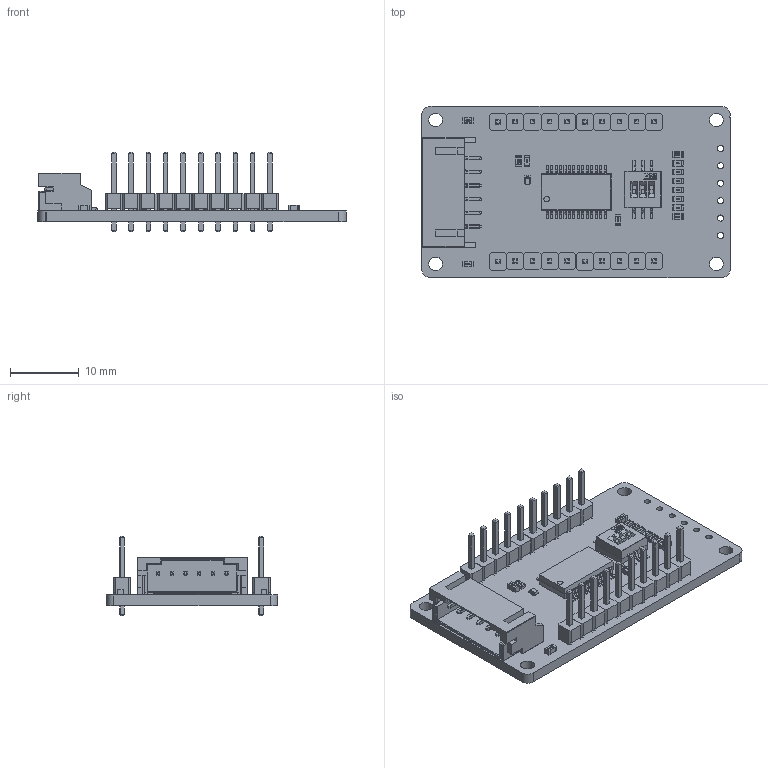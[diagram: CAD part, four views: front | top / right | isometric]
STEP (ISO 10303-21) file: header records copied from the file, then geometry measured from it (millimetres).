
FILE_DESCRIPTION(/* description */ (''),/* implementation_level */ '2;1');
FILE_NAME(/* name */ 'SG-IO-E017-V1.2_step.prt.stp',/* time_stamp */ '2025-08-19T13:21:23+08:00',/* author */ (''),/* organization */ (''),/* preprocessor_version */ 'ST-DEVELOPER v16.7',/* originating_system */ 'SIEMENS PLM Software NX 12.0',/* authorisation */ '');
FILE_SCHEMA (('AUTOMOTIVE_DESIGN { 1 0 10303 214 3 1 1 1 }'));
Products named in the file (49): 1_1_2_3_4_A; 2_1_2_3_400; 3_1_2_3_400; PH2_0_SMD-W__1_2_30002; User_Library-LED_0603_R_Pad; User_Library-LED_0603_R_Pocket001; User_Library-LED_0603_R_Fillet; User_Library-LED_0603_R_Pad004; User_Library-LED_0603_R_Pocket002; _X2_041D043E0436043A0430_X0_; _X2_041C04350442043A0430_X0_; _X2_041A043E0440043F04430441_X0_; C_060313653; LOGO_10589; LOGO_; R_06031983; 2_54PIN_single; sw-dshp03ts-s; Open CASCADE STEP translator 6.8 1.1.1; C_0603; C1; C2; C3; User_Library-LED_0603_R; D1; PH2_0_SMD-W-6P-5891_AF0_ASM; PH2_0_SMD-W-6P-10863_AF0_ASM; PH2.0_SMD-W-6P; Designator8; PH2_0-6PWB; P2; P3; P4; R_0603; R1; R2; R3; R6; R7; S1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
Assembly tree (96 placements, depth 8):
  SG-IO-E017-V1.2_step
    Board
      Open CASCADE STEP translator 6.8 1.1.1
    R9
      R_0603
        R_06031983
        LOGO_
    R8
      R_0603
        R_06031983
        LOGO_
    C6
      C_0603
        LOGO_10589
        C_060313653
    C5
      C_0603
        LOGO_10589
        C_060313653
    C4
      C_0603
        LOGO_10589
        C_060313653
    U1
      SSOP-28-3
        _X2_041A043E0440043F04430441_X0_
        _X2_041C04350442043A0430_X0_
        _X2_041D043E0436043A0430_X0_  x14
    S1
      sw-dshp03ts-s
    R7
      R_0603
        R_06031983
        LOGO_
    R6
      R_0603
        R_06031983
        LOGO_
    R3
      R_0603
        R_06031983
        LOGO_
    R2
      R_0603
        R_06031983
        LOGO_
    R1
      R_0603
        R_06031983
        LOGO_
    P4
      2_54PIN_single  x10
    P3
      2_54PIN_single  x10
    P2
      PH2_0-6PWB
        Designator8
          PH2.0_SMD-W-6P
            PH2_0_SMD-W-6P-10863_AF0_ASM
              PH2_0_SMD-W__1_2_30002  x6
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Bounding box: 45 x 25.01 x 11.54 mm (x, y, z)
Volume: 2492.9 mm3; surface area: 5047.4 mm2
Topology: 286 solids, 286 shells, 5129 faces, 12609 edges, 8190 vertices
Faces by surface type: plane 3339, bspline 1003, cylinder 687, sphere 52, torus 48
Full cylindrical faces by diameter (mm): 0.9 x6, 1 x16, 1.15 x4, 2 x4
Entity records: 62203 total; most frequent: CARTESIAN_POINT 16756, ORIENTED_EDGE 8772, DIRECTION 7357, EDGE_CURVE 4386, LINE 3595, VECTOR 3595, VERTEX_POINT 2916, AXIS2_PLACEMENT_3D 1881
